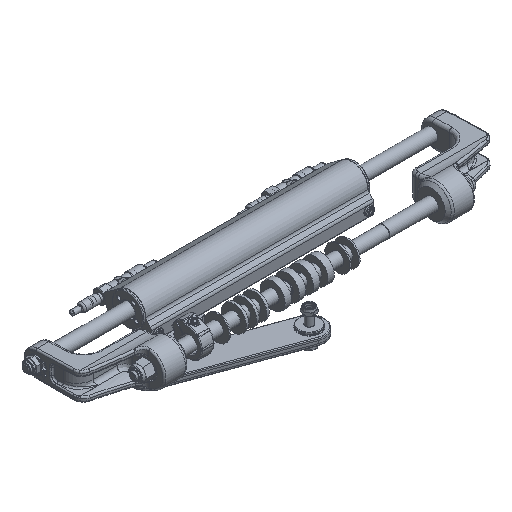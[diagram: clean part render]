
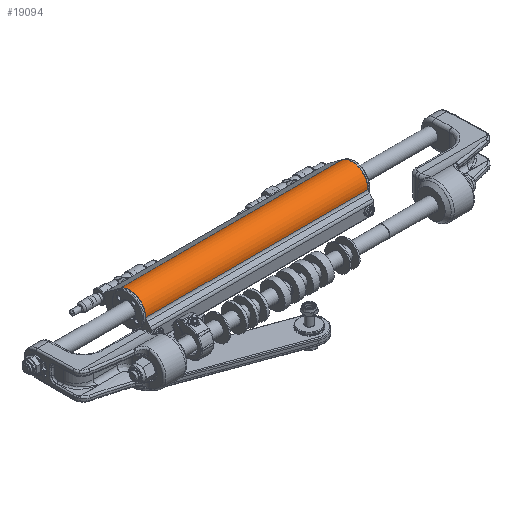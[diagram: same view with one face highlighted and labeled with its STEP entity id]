
A CAD part, isometric view. The second image highlights one B-rep face of the part: STEP entity #19094.
In plain terms, the highlighted cylindrical face has radius 20.5 mm (diameter 41 mm), a partial arc.
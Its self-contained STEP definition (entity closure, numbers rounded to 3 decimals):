
#1275=CYLINDRICAL_SURFACE('',#21134,20.5);
#1648=LINE('',#31510,#2431);
#1649=LINE('',#31512,#2432);
#2431=VECTOR('',#24400,10.);
#2432=VECTOR('',#24403,10.);
#3752=FACE_OUTER_BOUND('',#4949,.T.);
#4949=EDGE_LOOP('',(#13347,#13348,#13349,#13350));
#6231=CIRCLE('',#20961,20.5);
#6249=CIRCLE('',#20982,20.5);
#7952=VERTEX_POINT('',#31018);
#7953=VERTEX_POINT('',#31020);
#7981=VERTEX_POINT('',#31081);
#7982=VERTEX_POINT('',#31083);
#9932=EDGE_CURVE('',#7952,#7953,#6231,.T.);
#9963=EDGE_CURVE('',#7981,#7982,#6249,.T.);
#10110=EDGE_CURVE('',#7952,#7982,#1648,.T.);
#10111=EDGE_CURVE('',#7953,#7981,#1649,.T.);
#13347=ORIENTED_EDGE('',*,*,#9932,.F.);
#13348=ORIENTED_EDGE('',*,*,#10110,.T.);
#13349=ORIENTED_EDGE('',*,*,#9963,.F.);
#13350=ORIENTED_EDGE('',*,*,#10111,.F.);
#19094=ADVANCED_FACE('',(#3752),#1275,.T.);
#20961=AXIS2_PLACEMENT_3D('',#31021,#23995,#23996);
#20982=AXIS2_PLACEMENT_3D('',#31084,#24050,#24051);
#21134=AXIS2_PLACEMENT_3D('',#31511,#24401,#24402);
#23995=DIRECTION('center_axis',(-1.,0.,0.));
#23996=DIRECTION('ref_axis',(0.,0.593,0.805));
#24050=DIRECTION('center_axis',(1.,0.,0.));
#24051=DIRECTION('ref_axis',(0.,0.593,0.805));
#24400=DIRECTION('',(1.,0.,0.));
#24401=DIRECTION('center_axis',(1.,0.,0.));
#24402=DIRECTION('ref_axis',(0.,0.593,0.805));
#24403=DIRECTION('',(1.,0.,0.));
#31018=CARTESIAN_POINT('',(0.,20.5,-0.057));
#31020=CARTESIAN_POINT('',(0.,-12.16,-16.504));
#31021=CARTESIAN_POINT('Origin',(0.,0.,0.));
#31081=CARTESIAN_POINT('',(284.,-12.16,-16.504));
#31083=CARTESIAN_POINT('',(284.,20.5,-0.057));
#31084=CARTESIAN_POINT('Origin',(284.,0.,0.));
#31510=CARTESIAN_POINT('',(0.,20.5,-0.057));
#31511=CARTESIAN_POINT('Origin',(0.,0.,0.));
#31512=CARTESIAN_POINT('',(0.,-12.16,-16.504));
